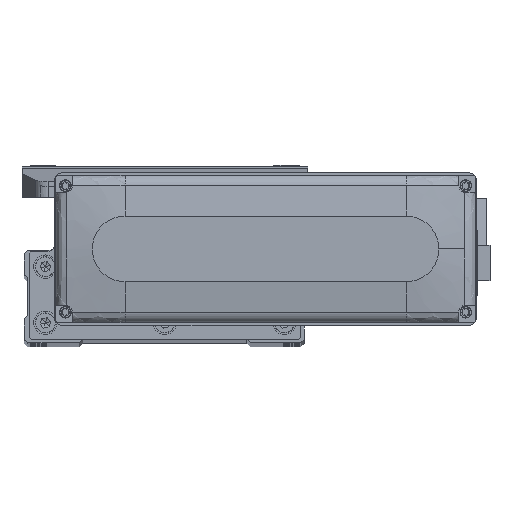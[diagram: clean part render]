
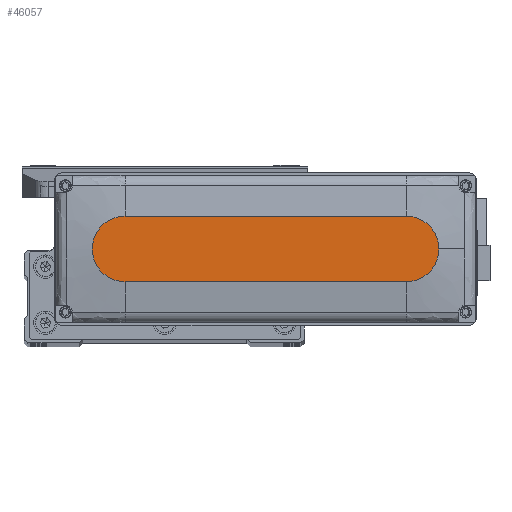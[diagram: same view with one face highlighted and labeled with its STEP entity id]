
A CAD part, top view. The second image highlights one B-rep face of the part: STEP entity #46057.
In plain terms, the highlighted planar face has unit normal (0, 0, 1).
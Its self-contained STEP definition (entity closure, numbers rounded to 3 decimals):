
#641 = EDGE_LOOP ( 'NONE', ( #29249, #36608, #4754, #14700, #33594 ) ) ;
#706 = DIRECTION ( 'NONE',  ( 0., 0., 1. ) ) ;
#4754 = ORIENTED_EDGE ( 'NONE', *, *, #26679, .T. ) ;
#7023 = VECTOR ( 'NONE', #41129, 1000. ) ;
#7308 = LINE ( 'NONE', #21943, #38801 ) ;
#8377 = CARTESIAN_POINT ( 'NONE',  ( -60., 14., 28.5 ) ) ;
#9537 = DIRECTION ( 'NONE',  ( 1., 0., 0. ) ) ;
#10885 = CARTESIAN_POINT ( 'NONE',  ( 60., 0., 28.5 ) ) ;
#11119 = CARTESIAN_POINT ( 'NONE',  ( 0., 0., 28.5 ) ) ;
#11933 = LINE ( 'NONE', #26549, #7023 ) ;
#14700 = ORIENTED_EDGE ( 'NONE', *, *, #39099, .T. ) ;
#15334 = DIRECTION ( 'NONE',  ( 1., 0., 0. ) ) ;
#17334 = AXIS2_PLACEMENT_3D ( 'NONE', #10885, #25492, #40070 ) ;
#17898 = VERTEX_POINT ( 'NONE', #22414 ) ;
#20258 = AXIS2_PLACEMENT_3D ( 'NONE', #27735, #42305, #9537 ) ;
#21299 = AXIS2_PLACEMENT_3D ( 'NONE', #33521, #706, #15334 ) ;
#21943 = CARTESIAN_POINT ( 'NONE',  ( -60., 14., 28.5 ) ) ;
#22414 = CARTESIAN_POINT ( 'NONE',  ( 74., 0., 28.5 ) ) ;
#22829 = EDGE_CURVE ( 'NONE', #46342, #46396, #7308, .T. ) ;
#25162 = CARTESIAN_POINT ( 'NONE',  ( 60., 14., 28.5 ) ) ;
#25492 = DIRECTION ( 'NONE',  ( 0., 0., 1. ) ) ;
#25735 = DIRECTION ( 'NONE',  ( 0., 0., 1. ) ) ;
#26549 = CARTESIAN_POINT ( 'NONE',  ( -60., -14., 28.5 ) ) ;
#26679 = EDGE_CURVE ( 'NONE', #32541, #34514, #11933, .T. ) ;
#27735 = CARTESIAN_POINT ( 'NONE',  ( -60., 0., 28.5 ) ) ;
#29249 = ORIENTED_EDGE ( 'NONE', *, *, #22829, .T. ) ;
#29313 = FACE_OUTER_BOUND ( 'NONE', #641, .T. ) ;
#29453 = EDGE_CURVE ( 'NONE', #46396, #32541, #40882, .T. ) ;
#32102 = EDGE_CURVE ( 'NONE', #17898, #46342, #37953, .T. ) ;
#32541 = VERTEX_POINT ( 'NONE', #46949 ) ;
#33521 = CARTESIAN_POINT ( 'NONE',  ( 60., 0., 28.5 ) ) ;
#33594 = ORIENTED_EDGE ( 'NONE', *, *, #32102, .T. ) ;
#34514 = VERTEX_POINT ( 'NONE', #41305 ) ;
#36512 = DIRECTION ( 'NONE',  ( -1., 0., 0. ) ) ;
#36608 = ORIENTED_EDGE ( 'NONE', *, *, #29453, .T. ) ;
#37211 = AXIS2_PLACEMENT_3D ( 'NONE', #11119, #25735, #40320 ) ;
#37953 = CIRCLE ( 'NONE', #17334, 14. ) ;
#38801 = VECTOR ( 'NONE', #36512, 1000. ) ;
#39099 = EDGE_CURVE ( 'NONE', #34514, #17898, #41899, .T. ) ;
#40070 = DIRECTION ( 'NONE',  ( 1., 0., 0. ) ) ;
#40320 = DIRECTION ( 'NONE',  ( 1., 0., 0. ) ) ;
#40882 = CIRCLE ( 'NONE', #20258, 14. ) ;
#41129 = DIRECTION ( 'NONE',  ( 1., 0., 0. ) ) ;
#41305 = CARTESIAN_POINT ( 'NONE',  ( 60., -14., 28.5 ) ) ;
#41899 = CIRCLE ( 'NONE', #21299, 14. ) ;
#42305 = DIRECTION ( 'NONE',  ( 0., 0., 1. ) ) ;
#43884 = PLANE ( 'NONE',  #37211 ) ;
#46057 = ADVANCED_FACE ( 'NONE', ( #29313 ), #43884, .T. ) ;
#46342 = VERTEX_POINT ( 'NONE', #25162 ) ;
#46396 = VERTEX_POINT ( 'NONE', #8377 ) ;
#46949 = CARTESIAN_POINT ( 'NONE',  ( -60., -14., 28.5 ) ) ;
